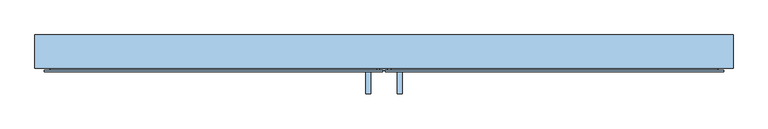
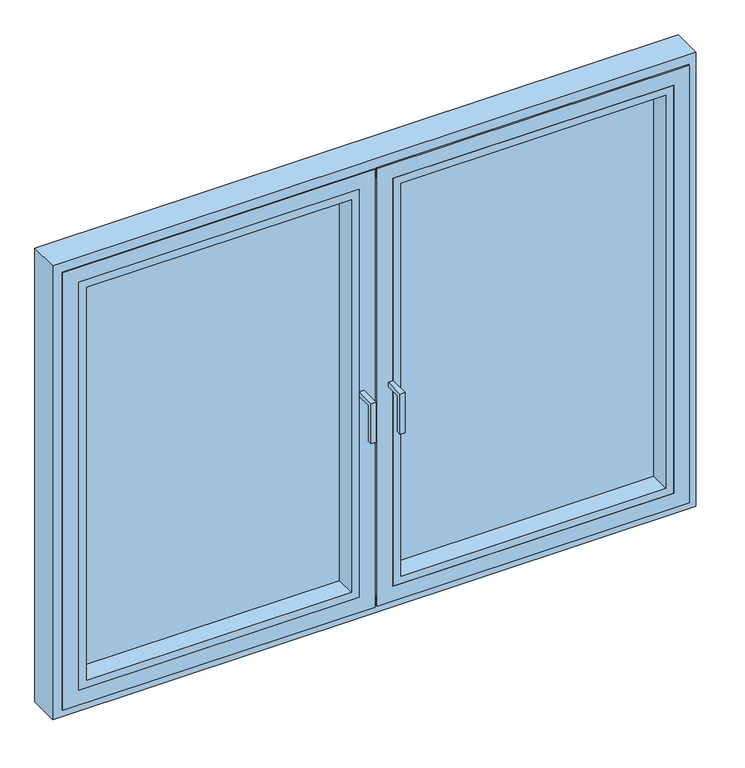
"""IFC4 building model written with IfcOpenShell, lengths in millimetres: window geometry, Reynaers_MasterLine 10_Window_Inward Opening_Double Vent : Reynaers_MasterLine 10_Window_Inward Opening_Double Vent."""

from ifc_helpers import new_model, si_unit, frame, origin, place, context, project, spatial, polyline, outline, extrude, faceted_brep, source, transform, mapped, element, save


def window_15d47e13(model_context):
    return source(origin(), model_context, "Body", "SolidModel", [
        extrude(outline(polyline([(-102.0, 1550.0), (-152.0, 1550.0), (-152.0, 1430.0), (-167.0, 1430.0), (-167.0, 1565.0), (-102.0, 1565.0), (-102.0, 1550.0)])), frame((38.5, 0.0, 0.0), z_axis=(1.0, 0.0, 0.0), x_axis=(0.0, 1.0, 0.0)), (0.0, 0.0, 1.0), 15.0),
        extrude(outline(polyline([(-102.0, 1565.0), (-102.0, 1550.0), (-152.0, 1550.0), (-152.0, 1430.0), (-167.0, 1430.0), (-167.0, 1565.0), (-102.0, 1565.0)])), frame((-53.5, 0.0, 0.0), z_axis=(1.0, 0.0, 0.0), x_axis=(0.0, 1.0, 0.0)), (0.0, 0.0, 1.0), 15.0),
        extrude(outline(polyline([(-36.5, 5.0), (36.5000018, 5.0), (36.5000018, 0.2), (9.5000018, 0.2), (9.5000018, -98.0), (-11.7999982, -98.0), (-11.7999982, 0.2), (-36.5, 0.2), (-36.5, 5.0)])), frame((0.0, 0.0, 860.0000019), z_axis=(0.0, 0.0, 1.0), x_axis=(1.0, 0.0, 0.0)), (0.0, 0.0, 1.0), 1399.9999981),
        extrude(outline(polyline([(2243.0, 53.5), (877.0, 53.5), (877.0, 943.0), (2243.0, 943.0), (2243.0, 53.5)]), holes=[polyline([(2218.0, 918.0), (902.0, 918.0), (902.0, 78.5), (2218.0, 78.5), (2218.0, 918.0)])]), frame((0.0, -102.0, 0.0), z_axis=(0.0, 1.0, 0.0), x_axis=(0.0, 0.0, 1.0)), (0.0, 0.0, 1.0), 66.0),
        faceted_brep([(43.5, 5.0, 867.0), (43.5, -5.0, 867.0), (43.5, -5.0, 2253.0), (43.5, 5.0, 2253.0), (80.5, -3.0, 904.0), (80.5, 5.0, 904.0), (80.5, 5.0, 2216.0), (80.5, -3.0, 2216.0), (953.0, -5.0, 2253.0), (953.0, 5.0, 2253.0), (916.0, 5.0, 2216.0), (916.0, -3.0, 2216.0), (953.0, -5.0, 867.0), (953.0, 5.0, 867.0), (916.0, 5.0, 904.0), (916.0, -3.0, 904.0), (3.5, -102.0, 827.0), (993.0, -102.0, 827.0), (993.0, -102.0, 2293.0), (3.5, -102.0, 2293.0), (53.5, -102.0, 2243.0), (943.0, -102.0, 2243.0), (943.0, -102.0, 877.0), (53.5, -102.0, 877.0), (53.5, -3.0, 2243.0), (943.0, -3.0, 2243.0), (943.0, -3.0, 877.0), (53.5, -3.0, 877.0), (21.5, -5.0, 2275.0), (21.5, -98.0, 2275.0), (975.0, -98.0, 2275.0), (975.0, -5.0, 2275.0), (3.5, -98.0, 2293.0), (993.0, -98.0, 2293.0), (975.0, -98.0, 845.0), (975.0, -5.0, 845.0), (993.0, -98.0, 827.0), (21.5, -98.0, 845.0), (21.5, -5.0, 845.0), (3.5, -98.0, 827.0)], [[[0, 1, 2, 3]], [[4, 5, 6, 7]], [[3, 2, 8, 9]], [[7, 6, 10, 11]], [[9, 8, 12, 13]], [[11, 10, 14, 15]], [[3, 9, 13, 0], [5, 14, 10, 6]], [[13, 12, 1, 0]], [[16, 17, 18, 19], [20, 21, 22, 23]], [[15, 14, 5, 4]], [[20, 24, 25, 21]], [[21, 25, 26, 22]], [[22, 26, 27, 23]], [[23, 27, 24, 20]], [[24, 27, 26, 25], [11, 15, 4, 7]], [[28, 29, 30, 31]], [[32, 19, 18, 33]], [[31, 30, 34, 35]], [[33, 18, 17, 36]], [[35, 34, 37, 38]], [[36, 17, 16, 39]], [[31, 35, 38, 28], [2, 1, 12, 8]], [[38, 37, 29, 28]], [[33, 36, 39, 32], [29, 37, 34, 30]], [[39, 16, 19, 32]]]),
        extrude(outline(polyline([(2243.0, -943.0), (877.0, -943.0), (877.0, -53.5), (2243.0, -53.5), (2243.0, -943.0)]), holes=[polyline([(2218.0, -78.5), (902.0, -78.5), (902.0, -918.0), (2218.0, -918.0), (2218.0, -78.5)])]), frame((0.0, -102.0, 0.0), z_axis=(0.0, 1.0, 0.0), x_axis=(0.0, 0.0, 1.0)), (0.0, 0.0, 1.0), 66.0),
        faceted_brep([(1019.9999981, -92.0, 800.0000019), (1019.9999981, 5.0, 800.0000019), (1019.9999981, 5.0, 2319.9999981), (1019.9999981, -92.0, 2319.9999981), (959.9999981, 5.0, 860.0000019), (959.9999981, 1.0, 860.0000019), (959.9999981, 1.0, 2259.9999981), (959.9999981, 5.0, 2259.9999981), (-1020.0, 5.0, 2319.9999981), (-1020.0, -92.0, 2319.9999981), (-960.0, 1.0, 2259.9999981), (-960.0, 5.0, 2259.9999981), (-1020.0, 5.0, 800.0000019), (-1020.0, -92.0, 800.0000019), (-960.0, 1.0, 860.0000019), (-960.0, 5.0, 860.0000019), (986.9999981, -92.0, 833.0000019), (-987.0, -92.0, 833.0000019), (-987.0, -92.0, 2286.9999981), (986.9999981, -92.0, 2286.9999981), (986.9999981, 1.0, 2286.9999981), (-987.0, 1.0, 2286.9999981), (-987.0, 1.0, 833.0000019), (986.9999981, 1.0, 833.0000019)], [[[0, 1, 2, 3]], [[4, 5, 6, 7]], [[3, 2, 8, 9]], [[7, 6, 10, 11]], [[9, 8, 12, 13]], [[11, 10, 14, 15]], [[1, 12, 8, 2], [7, 11, 15, 4]], [[13, 12, 1, 0]], [[3, 9, 13, 0], [16, 17, 18, 19]], [[15, 14, 5, 4]], [[20, 19, 18, 21]], [[21, 18, 17, 22]], [[22, 17, 16, 23]], [[23, 16, 19, 20]], [[21, 22, 23, 20], [6, 5, 14, 10]]]),
        faceted_brep([(-43.5, -5.0, 867.0), (-43.5, 5.0, 867.0), (-43.5, 5.0, 2253.0), (-43.5, -5.0, 2253.0), (-80.5, 5.0, 904.0), (-80.5, -3.0, 904.0), (-80.5, -3.0, 2216.0), (-80.5, 5.0, 2216.0), (-953.0, 5.0, 2253.0), (-953.0, -5.0, 2253.0), (-916.0, -3.0, 2216.0), (-916.0, 5.0, 2216.0), (-953.0, 5.0, 867.0), (-953.0, -5.0, 867.0), (-916.0, -3.0, 904.0), (-916.0, 5.0, 904.0), (-3.4999982, -102.0, 2293.0000018), (-993.0000018, -102.0, 2293.0000018), (-993.0000018, -102.0, 826.9999982), (-3.4999982, -102.0, 826.9999982), (-53.4999982, -102.0, 876.9999982), (-943.0000018, -102.0, 876.9999982), (-943.0000018, -102.0, 2243.0000018), (-53.4999982, -102.0, 2243.0000018), (-53.4999982, -3.0, 2243.0000018), (-943.0000018, -3.0, 2243.0000018), (-943.0000018, -3.0, 876.9999982), (-53.4999982, -3.0, 876.9999982), (-21.4999982, -98.0, 2275.0000018), (-21.4999982, -5.0, 2275.0000018), (-975.0000018, -5.0, 2275.0000018), (-975.0000018, -98.0, 2275.0000018), (-3.4999982, -98.0, 2293.0000018), (-993.0000018, -98.0, 2293.0000018), (-975.0000018, -5.0, 844.9999982), (-975.0000018, -98.0, 844.9999982), (-993.0000018, -98.0, 826.9999982), (-21.4999982, -5.0, 844.9999982), (-21.4999982, -98.0, 844.9999982), (-3.4999982, -98.0, 826.9999982)], [[[0, 1, 2, 3]], [[4, 5, 6, 7]], [[3, 2, 8, 9]], [[7, 6, 10, 11]], [[9, 8, 12, 13]], [[11, 10, 14, 15]], [[1, 12, 8, 2], [7, 11, 15, 4]], [[13, 12, 1, 0]], [[16, 17, 18, 19], [20, 21, 22, 23]], [[15, 14, 5, 4]], [[24, 23, 22, 25]], [[25, 22, 21, 26]], [[26, 21, 20, 27]], [[27, 20, 23, 24]], [[25, 26, 27, 24], [6, 5, 14, 10]], [[28, 29, 30, 31]], [[16, 32, 33, 17]], [[31, 30, 34, 35]], [[17, 33, 36, 18]], [[35, 34, 37, 38]], [[18, 36, 39, 19]], [[29, 37, 34, 30], [9, 13, 0, 3]], [[38, 37, 29, 28]], [[32, 39, 36, 33], [31, 35, 38, 28]], [[19, 39, 32, 16]]]),
        extrude(outline(polyline([(935.0, -30.0), (61.5, -30.0), (61.5, -3.0), (935.0, -3.0), (935.0, -30.0)])), frame((0.0, 0.0, 885.0), z_axis=(0.0, 0.0, 1.0), x_axis=(1.0, 0.0, 0.0)), (0.0, 0.0, 1.0), 1350.0),
        extrude(outline(polyline([(-61.5, -30.0), (-935.0, -30.0), (-935.0, -3.0), (-61.5, -3.0), (-61.5, -30.0)])), frame((0.0, 0.0, 885.0), z_axis=(0.0, 0.0, 1.0), x_axis=(1.0, 0.0, 0.0)), (0.0, 0.0, 1.0), 1350.0),
    ])


if __name__ == "__main__":
    model = new_model("IFC4")
    model_context = context("Model", 3, world=origin())
    ifc_project = project(units=[si_unit("LENGTHUNIT", "METRE", prefix="MILLI")], contexts=[model_context])
    site = spatial("IfcSite", under=ifc_project)
    building = spatial("IfcBuilding", under=site)
    placement = place(None, origin())
    window_shape = window_15d47e13(model_context)
    element("IfcWindow", 1, ObjectType="Reynaers_MasterLine 10_Window_Inward Opening_Double Vent : Reynaers_MasterLine 10_Window_Inward Opening_Double Vent", at=placement, inside=building, context=model_context, shape_type="MappedRepresentation", body=[
        mapped(window_shape, transform((0.0, 0.0, 0.0), x_axis=(1.0, 0.0, 0.0), y_axis=(0.0, 1.0, 0.0), z_axis=(0.0, 0.0, 1.0))),
    ])
    save(model, "model.ifc")
